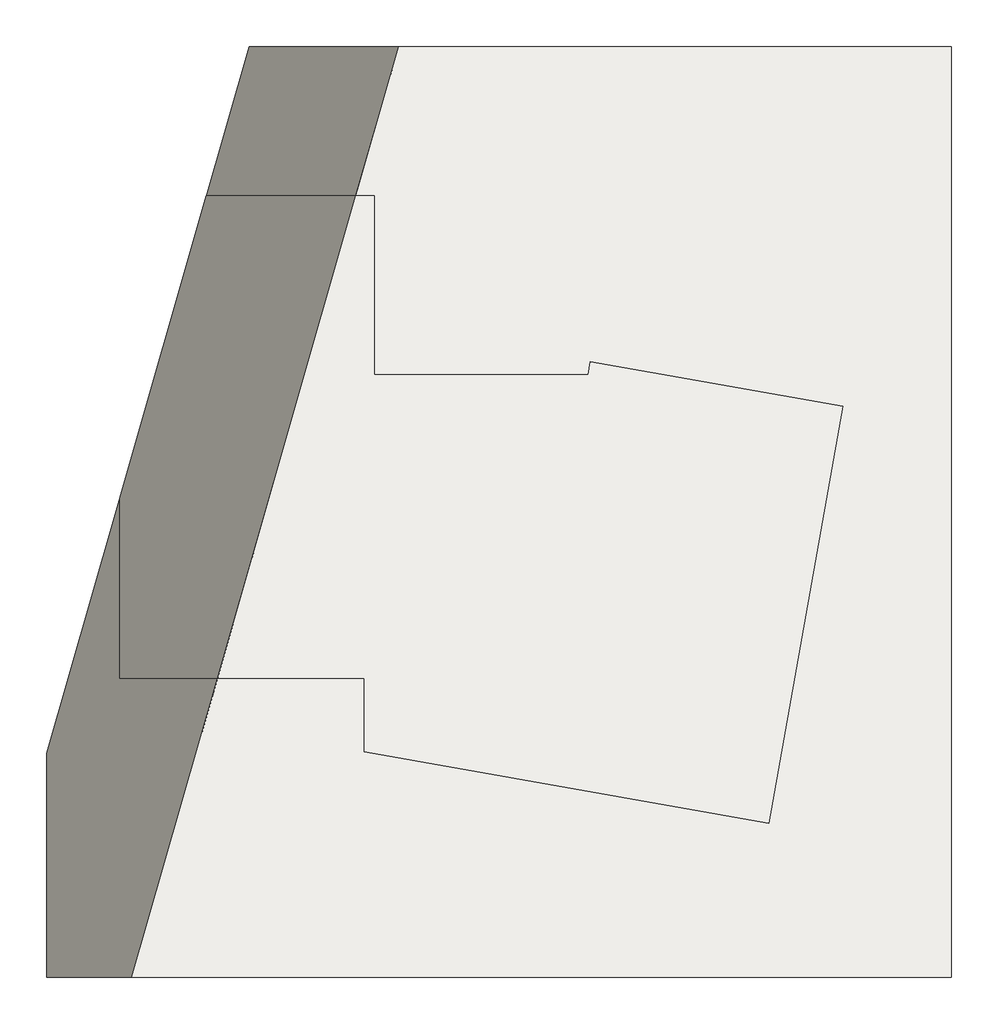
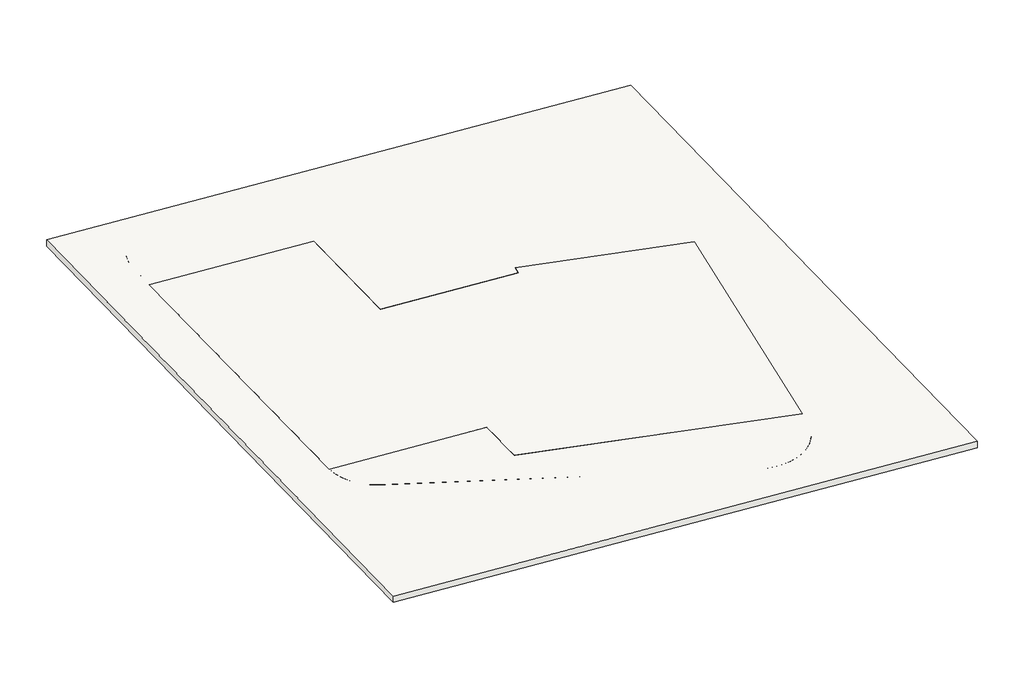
# One storey: 3 slabs.
"""IFC4 building model written with IfcOpenShell, lengths in millimetres."""

from ifc_helpers import new_model, si_unit, frame, origin, place, context, project, spatial, ellipse_curve, faceted_brep, element, save
from ifc_brep_helpers import plane_surface, cylinder_surface, advanced_brep

model = new_model("IFC4")

# Units and contexts
model_context = context("Model", 3, world=origin())
ifc_project = project(units=[si_unit("LENGTHUNIT", "METRE", prefix="MILLI")], contexts=[model_context])

# Site, building, storey
site = spatial("IfcSite", under=ifc_project)
building = spatial("IfcBuilding", under=site)
storey = spatial("IfcBuildingStorey", under=building, Name="03 3e verd. b.k. ruwe vloer", Elevation=6000.0)

# Slabs
placement = place(None, origin())
element("IfcSlab", 1, ObjectType="NLRS_23_FL Houten kanaalplaat_d=320", at=placement, inside=storey, context=model_context, shape_type="Brep", body=[
    faceted_brep([(17331.0, 24550.0, 6840.2069958), (17331.0, 19100.0, 6730.3960164), (23859.1682546, 19100.0, 6271.6771068), (23927.8617152, 19489.5799738, 6274.6997505), (31620.8842417, 18133.0925392, 5706.7976934), (29375.8747579, 5417.7598705, 5608.3504485), (17025.0, 7595.5523256, 6520.0970549), (17025.0, 9844.0, 6565.4005854), (9564.9953908, 9844.0, 7089.597427), (9564.9953908, 24550.0, 7385.905732), (17331.0, 24550.0, 7161.0608189), (9564.9953908, 24550.0, 7706.7595552), (9564.9953908, 9844.0, 7410.4512501), (17025.0, 9844.0, 6886.2544086), (17025.0, 7595.5523256, 6840.9508781), (29375.8747579, 5417.7598705, 5929.2042717), (31620.8842417, 18133.0925392, 6027.6515166), (23927.8617152, 19489.5799738, 6595.5535737), (23859.1682546, 19100.0, 6592.53093), (17331.0, 19100.0, 7051.2498396)], [[[0, 1, 2, 3, 4, 5, 6, 7, 8, 9]], [[10, 11, 12, 13, 14, 15, 16, 17, 18, 19]], [[1, 0, 10, 19]], [[2, 1, 19, 18]], [[3, 2, 18, 17]], [[4, 3, 17, 16]], [[5, 4, 16, 15]], [[6, 5, 15, 14]], [[7, 6, 14, 13]], [[8, 7, 13, 12]], [[9, 8, 12, 11]], [[0, 9, 11, 10]]]),
])
element("IfcSlab", 2, ObjectType="NLRS_23_FL stalen liggers_bk_h=160", at=placement, inside=storey, context=model_context, shape_type="AdvancedBrep", body=[
    advanced_brep(
    [(17025.0, 7595.5523256, 6680.5239665), (29375.8747579, 5417.7598705, 5768.7773601), (29269.7664019, 4816.7810969, 5764.1243395), (25544.6031527, 2663.6885097, 5982.5004917), (10889.7617534, 7978.0603883, 7119.3396956), (9565.1345491, 9844.0, 7250.0145602), (17025.0, 9844.0, 6725.827497), (17025.0, 7595.5523256, 6840.9508781), (17025.0, 9844.0, 6886.2544086), (9565.1345491, 9844.0, 7410.4414718), (10889.7617534, 7978.0603883, 7279.7666072), (25544.6031527, 2663.6885097, 6142.9274033), (29269.7664019, 4816.7810969, 5924.5512511), (29375.8747579, 5417.7598705, 5929.2042717)],
    [
        (0, 1),
        (1, 2),
        (2, 3, ellipse_curve(frame((26502.5665961, 5305.355794, 5968.4131064), z_axis=(-0.07008064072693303, 0.020095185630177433, -0.9973389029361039), x_axis=(0.9587041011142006, -0.27490240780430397, -0.0729048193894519)), 2817.4976347, 2810.0)),
        (3, 4),
        (4, 5, ellipse_curve(frame((11574.9953908, 9867.6515775, 7109.2629538), z_axis=(-0.07008064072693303, 0.020095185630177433, -0.9973389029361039), x_axis=(0.9587041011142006, -0.27490240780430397, -0.0729048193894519)), 2015.3630768, 2010.0)),
        (5, 6),
        (6, 0),
        (7, 8),
        (8, 9),
        (9, 10, ellipse_curve(frame((11574.9953908, 9867.6515775, 7269.6898654), z_axis=(0.07008064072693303, -0.020095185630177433, 0.9973389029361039), x_axis=(0.9587041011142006, -0.27490240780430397, -0.0729048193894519)), 2015.3630768, 2010.0)),
        (10, 11),
        (11, 12, ellipse_curve(frame((26502.5665961, 5305.355794, 6128.840018), z_axis=(0.07008064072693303, -0.020095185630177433, 0.9973389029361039), x_axis=(0.9587041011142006, -0.27490240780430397, -0.0729048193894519)), 2817.4976347, 2810.0)),
        (12, 13),
        (13, 7),
        (6, 8),
        (7, 0),
        (13, 1),
        (5, 9),
        (12, 2),
        (11, 3),
        (10, 4),
    ],
    [
        plane_surface(frame((30201.6171044, 11811.1263764, 5839.5730884), z_axis=(-0.07008064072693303, 0.020095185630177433, -0.9973389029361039), x_axis=(-0.9587041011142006, 0.27490240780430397, 0.07290481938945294))),
        plane_surface(frame((30201.6171044, 11811.1263764, 6000.0), z_axis=(0.07008064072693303, -0.020095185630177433, 0.9973389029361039), x_axis=(0.9587041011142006, -0.27490240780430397, -0.07290481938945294))),
        plane_surface(frame((17025.0, 9844.0, 6725.827497), z_axis=(1.0, 0.0, 0.0), x_axis=(0.0, 0.0, 1.0))),
        plane_surface(frame((17025.0, 7595.5523256, 6680.5239665), z_axis=(0.1736481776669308, 0.984807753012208, 0.0), x_axis=(0.0, 0.0, 1.0))),
        plane_surface(frame((9565.1345491, 9844.0, 7250.0145602), z_axis=(0.0, 1.0, 0.0), x_axis=(0.0, 0.0, 1.0))),
        plane_surface(frame((29375.8747579, 5417.7598705, 5768.7773601), z_axis=(0.9847686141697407, -0.17386999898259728, 0.0), x_axis=(0.0, 0.0, 1.0))),
        cylinder_surface(frame((26502.5665961, 5305.355794, 6000.0), z_axis=(0.0, 0.0, -1.0), x_axis=(1.0, 0.0, 0.0)), 2810.0),
        plane_surface(frame((25544.6031527, 2663.6885097, 5982.5004917), z_axis=(-0.3409122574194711, -0.9400951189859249, 0.0), x_axis=(0.0, 0.0, 1.0))),
        cylinder_surface(frame((11574.9953908, 9867.6515775, 6000.0), z_axis=(0.0, 0.0, -1.0), x_axis=(1.0, 0.0, 0.0)), 2010.0),
    ],
    [
        (0, [[1, 2, 3, 4, 5, 6, 7]]),
        (1, [[8, 9, 10, 11, 12, 13, 14]]),
        (2, [[-7, 15, -8, 16]]),
        (3, [[-1, -16, -14, 17]]),
        (4, [[-6, 18, -9, -15]]),
        (5, [[-2, -17, -13, 19]]),
        (6, [[-3, -19, -12, 20]]),
        (7, [[-4, -20, -11, 21]]),
        (8, [[-5, -21, -10, -18]]),
    ],
),
    advanced_brep(
    [(17331.0, 24550.0, 7000.6339074), (9564.9953908, 24550.0, 7546.3326436), (9564.9953908, 25893.1503036, 7573.3955152), (12451.3392848, 28068.7166732, 7414.4140306), (29970.7038634, 23049.729655, 6082.2432242), (31883.3118171, 19619.4354459, 5878.7324726), (31620.8842418, 18133.0925392, 5867.224605), (23927.8617151, 19489.5799738, 6435.1266621), (23859.1753902, 19100.0404679, 6432.1043324), (17331.0, 19100.0404679, 6890.8237434), (17331.0, 24550.0, 7161.0608189), (17331.0, 19100.0404679, 7051.250655), (23859.1753902, 19100.0404679, 6592.531244), (23927.8617151, 19489.5799738, 6595.5535737), (31620.8842418, 18133.0925392, 6027.6515166), (31883.3118171, 19619.4354459, 6039.1593842), (29970.7038634, 23049.729655, 6242.6701358), (12451.3392848, 28068.7166732, 7574.8409422), (9564.9953908, 25893.1503036, 7733.8224268), (9564.9953908, 24550.0, 7706.7595552)],
    [
        (0, 1),
        (1, 2),
        (2, 3, ellipse_curve(frame((11828.0781319, 25893.1503036, 7414.3740551), z_axis=(-0.07008064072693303, 0.020095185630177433, -0.9973389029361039), x_axis=(0.9587041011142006, -0.27490240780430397, -0.0729048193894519)), 2269.1210926, 2263.0827411)),
        (3, 4),
        (4, 5, ellipse_curve(frame((28820.681427, 20160.1711427, 6104.8314281), z_axis=(-0.07008064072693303, 0.020095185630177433, -0.9973389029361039), x_axis=(0.9587041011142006, -0.27490240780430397, -0.0729048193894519)), 3118.2980939, 3110.0)),
        (5, 6),
        (6, 7),
        (7, 8),
        (8, 9),
        (9, 0),
        (10, 11),
        (11, 12),
        (12, 13),
        (13, 14),
        (14, 15),
        (15, 16, ellipse_curve(frame((28820.681427, 20160.1711427, 6265.2583397), z_axis=(0.07008064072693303, -0.020095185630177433, 0.9973389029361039), x_axis=(0.9587041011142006, -0.27490240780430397, -0.0729048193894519)), 3118.2980939, 3110.0)),
        (16, 17),
        (17, 18, ellipse_curve(frame((11828.0781319, 25893.1503036, 7574.8009667), z_axis=(0.07008064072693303, -0.020095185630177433, 0.9973389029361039), x_axis=(0.9587041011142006, -0.27490240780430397, -0.0729048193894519)), 2269.1210926, 2263.0827411)),
        (18, 19),
        (19, 10),
        (6, 14),
        (13, 7),
        (12, 8),
        (11, 9),
        (10, 0),
        (19, 1),
        (18, 2),
        (5, 15),
        (17, 3),
        (16, 4),
    ],
    [
        plane_surface(frame((30201.6171044, 11811.1263764, 5839.5730884), z_axis=(-0.07008064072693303, 0.020095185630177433, -0.9973389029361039), x_axis=(-0.9587041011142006, 0.27490240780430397, 0.07290481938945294))),
        plane_surface(frame((30201.6171044, 11811.1263764, 6000.0), z_axis=(0.07008064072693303, -0.020095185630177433, 0.9973389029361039), x_axis=(0.9587041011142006, -0.27490240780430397, -0.07290481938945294))),
        plane_surface(frame((31620.8842418, 18133.0925392, 5867.224605), z_axis=(-0.17364817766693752, -0.9848077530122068, 0.0), x_axis=(0.0, 0.0, 1.0))),
        plane_surface(frame((23927.8617151, 19489.5799738, 6435.1266621), z_axis=(0.9848077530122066, -0.17364817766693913, 0.0), x_axis=(0.0, 0.0, 1.0))),
        plane_surface(frame((23859.1753902, 19100.0404679, 6432.1043324), z_axis=(0.0, -1.0, 0.0), x_axis=(0.0, 0.0, 1.0))),
        plane_surface(frame((17331.0, 19100.0404679, 6890.8237434), z_axis=(-1.0, 0.0, 0.0), x_axis=(0.0, 0.0, 1.0))),
        plane_surface(frame((17331.0, 24550.0, 7000.6339074), z_axis=(0.0, -1.0, 0.0), x_axis=(0.0, 0.0, 1.0))),
        plane_surface(frame((9564.9953908, 24550.0, 7546.3326436), z_axis=(-1.0, 0.0, 0.0), x_axis=(0.0, 0.0, 1.0))),
        plane_surface(frame((31883.3118171, 19619.4354459, 5878.7324726), z_axis=(0.9847686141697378, -0.17386999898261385, 0.0), x_axis=(0.0, 0.0, 1.0))),
        cylinder_surface(frame((11828.0781319, 25893.1503036, 6000.0), z_axis=(0.0, 0.0, -1.0), x_axis=(1.0, 0.0, 0.0)), 2263.0827411),
        plane_surface(frame((12451.3392848, 28068.7166732, 7414.4140306), z_axis=(0.27540360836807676, 0.9613286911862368, 0.0), x_axis=(0.0, 0.0, 1.0))),
        cylinder_surface(frame((28820.681427, 20160.1711427, 6000.0), z_axis=(0.0, 0.0, -1.0), x_axis=(1.0, 0.0, 0.0)), 3110.0),
    ],
    [
        (0, [[1, 2, 3, 4, 5, 6, 7, 8, 9, 10]]),
        (1, [[11, 12, 13, 14, 15, 16, 17, 18, 19, 20]]),
        (2, [[-7, 21, -14, 22]]),
        (3, [[-8, -22, -13, 23]]),
        (4, [[-9, -23, -12, 24]]),
        (5, [[-10, -24, -11, 25]]),
        (6, [[-1, -25, -20, 26]]),
        (7, [[-2, -26, -19, 27]]),
        (8, [[-6, 28, -15, -21]]),
        (9, [[-3, -27, -18, 29]]),
        (10, [[-4, -29, -17, 30]]),
        (11, [[-5, -30, -16, -28]]),
    ],
),
])
element("IfcSlab", 3, ObjectType="NLRS_23_FL Houten kanaalplaat_d=320", at=placement, inside=storey, context=model_context, shape_type="Brep", body=[
    faceted_brep([(34937.0, 29108.5806125, 5694.9250523), (34937.0, 708.5806125, 5122.6990315), (7337.0, 708.5806125, 7062.0856115), (7337.0, 29108.5806125, 7634.3116323), (34937.0, 29108.5806125, 6015.7788755), (7337.0, 29108.5806125, 7955.1654555), (7337.0, 708.5806125, 7382.9394346), (34937.0, 708.5806125, 5443.5528546)], [[[0, 1, 2, 3]], [[4, 5, 6, 7]], [[1, 0, 4, 7]], [[2, 1, 7, 6]], [[3, 2, 6, 5]], [[0, 3, 5, 4]]]),
])

save(model, "model.ifc")
